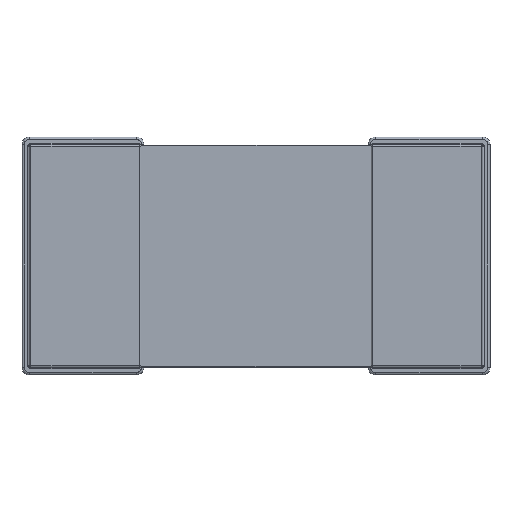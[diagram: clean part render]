
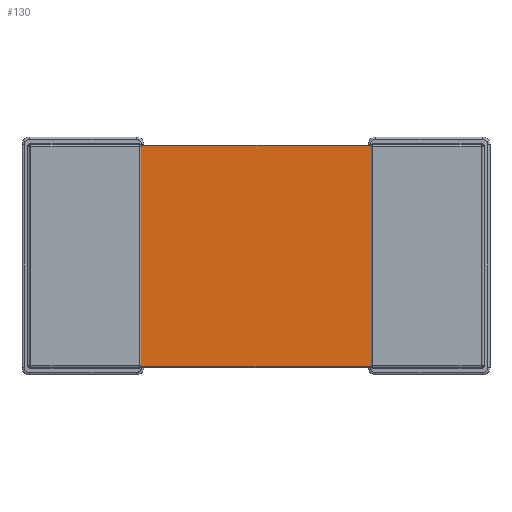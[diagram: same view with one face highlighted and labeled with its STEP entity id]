
A CAD part, top view. The second image highlights one B-rep face of the part: STEP entity #130.
In plain terms, the highlighted planar face has unit normal (0, 0, 1).
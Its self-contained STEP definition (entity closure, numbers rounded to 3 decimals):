
#130=ADVANCED_FACE('',(#1554),#1556,.T.);
#1554=FACE_BOUND('',#1555,.T.);
#1555=EDGE_LOOP('',(#2672,#2673,#2674,#2675,#2676,#2677,#2678,#2679));
#1556=PLANE('',#1557);
#1557=AXIS2_PLACEMENT_3D('',#1558,#1559,#1560);
#1558=CARTESIAN_POINT('',(-1.59,1.488,0.52));
#1559=DIRECTION('',(0.,0.,1.));
#1560=DIRECTION('',(0.,-1.,0.));
#2672=ORIENTED_EDGE('',*,*,#3414,.T.);
#2673=ORIENTED_EDGE('',*,*,#3408,.T.);
#2674=ORIENTED_EDGE('',*,*,#3415,.T.);
#2675=ORIENTED_EDGE('',*,*,#3416,.T.);
#2676=ORIENTED_EDGE('',*,*,#3417,.T.);
#2677=ORIENTED_EDGE('',*,*,#3418,.F.);
#2678=ORIENTED_EDGE('',*,*,#3419,.T.);
#2679=ORIENTED_EDGE('',*,*,#3420,.T.);
#3408=EDGE_CURVE('',#3819,#3817,#3820,.T.);
#3414=EDGE_CURVE('',#3830,#3819,#3831,.T.);
#3415=EDGE_CURVE('',#3817,#3832,#3833,.F.);
#3416=EDGE_CURVE('',#3832,#3834,#3835,.T.);
#3417=EDGE_CURVE('',#3834,#3836,#3837,.T.);
#3418=EDGE_CURVE('',#3838,#3836,#3839,.T.);
#3419=EDGE_CURVE('',#3838,#3840,#3841,.F.);
#3420=EDGE_CURVE('',#3840,#3830,#3842,.T.);
#3817=VERTEX_POINT('',#4515);
#3819=VERTEX_POINT('',#4523);
#3820=LINE('',#4524,#4525);
#3830=VERTEX_POINT('',#4553);
#3831=B_SPLINE_CURVE_WITH_KNOTS('',3,
(#4554,#4555,#4556,#4557,#4558,#4559),
.UNSPECIFIED.,.F.,.F.,
(4,1,1,4),
(0.,0.425,0.759,1.),
.UNSPECIFIED.);
#3832=VERTEX_POINT('',#4560);
#3833=B_SPLINE_CURVE_WITH_KNOTS('',3,
(#4561,#4562,#4563,#4564,#4565,#4566),
.UNSPECIFIED.,.F.,.F.,
(4,1,1,4),
(0.,0.386,0.721,1.),
.UNSPECIFIED.);
#3834=VERTEX_POINT('',#4567);
#3835=LINE('',#4568,#4569);
#3836=VERTEX_POINT('',#4571);
#3837=B_SPLINE_CURVE_WITH_KNOTS('',3,
(#4572,#4573,#4574,#4575,#4576,#4577),
.UNSPECIFIED.,.F.,.F.,
(4,1,1,4),
(0.,0.425,0.759,1.),
.UNSPECIFIED.);
#3838=VERTEX_POINT('',#4578);
#3839=LINE('',#4579,#4580);
#3840=VERTEX_POINT('',#4582);
#3841=B_SPLINE_CURVE_WITH_KNOTS('',3,
(#4583,#4584,#4585,#4586,#4587,#4588),
.UNSPECIFIED.,.F.,.F.,
(4,1,1,4),
(0.,0.386,0.721,1.),
.UNSPECIFIED.);
#3842=LINE('',#4589,#4590);
#4515=CARTESIAN_POINT('',(1.552,-1.488,0.52));
#4523=CARTESIAN_POINT('',(-1.552,-1.488,0.52));
#4524=CARTESIAN_POINT('',(-1.552,-1.488,0.52));
#4525=VECTOR('',#4526,1.);
#4526=DIRECTION('',(1.,0.,0.));
#4553=CARTESIAN_POINT('',(-1.55,-1.48,0.52));
#4554=CARTESIAN_POINT('',(-1.55,-1.48,0.52));
#4555=CARTESIAN_POINT('',(-1.55,-1.481,0.52));
#4556=CARTESIAN_POINT('',(-1.55,-1.483,0.52));
#4557=CARTESIAN_POINT('',(-1.551,-1.486,0.52));
#4558=CARTESIAN_POINT('',(-1.551,-1.487,0.52));
#4559=CARTESIAN_POINT('',(-1.552,-1.488,0.52));
#4560=CARTESIAN_POINT('',(1.55,-1.48,0.52));
#4561=CARTESIAN_POINT('',(1.55,-1.48,0.52));
#4562=CARTESIAN_POINT('',(1.55,-1.481,0.52));
#4563=CARTESIAN_POINT('',(1.55,-1.483,0.52));
#4564=CARTESIAN_POINT('',(1.551,-1.485,0.52));
#4565=CARTESIAN_POINT('',(1.551,-1.487,0.52));
#4566=CARTESIAN_POINT('',(1.552,-1.488,0.52));
#4567=CARTESIAN_POINT('',(1.55,1.48,0.52));
#4568=CARTESIAN_POINT('',(1.55,-1.48,0.52));
#4569=VECTOR('',#4570,1.);
#4570=DIRECTION('',(0.,1.,0.));
#4571=CARTESIAN_POINT('',(1.552,1.488,0.52));
#4572=CARTESIAN_POINT('',(1.55,1.48,0.52));
#4573=CARTESIAN_POINT('',(1.55,1.481,0.52));
#4574=CARTESIAN_POINT('',(1.55,1.483,0.52));
#4575=CARTESIAN_POINT('',(1.551,1.486,0.52));
#4576=CARTESIAN_POINT('',(1.551,1.487,0.52));
#4577=CARTESIAN_POINT('',(1.552,1.488,0.52));
#4578=CARTESIAN_POINT('',(-1.552,1.488,0.52));
#4579=CARTESIAN_POINT('',(-1.552,1.488,0.52));
#4580=VECTOR('',#4581,1.);
#4581=DIRECTION('',(1.,0.,0.));
#4582=CARTESIAN_POINT('',(-1.55,1.48,0.52));
#4583=CARTESIAN_POINT('',(-1.55,1.48,0.52));
#4584=CARTESIAN_POINT('',(-1.55,1.481,0.52));
#4585=CARTESIAN_POINT('',(-1.55,1.483,0.52));
#4586=CARTESIAN_POINT('',(-1.551,1.485,0.52));
#4587=CARTESIAN_POINT('',(-1.551,1.487,0.52));
#4588=CARTESIAN_POINT('',(-1.552,1.488,0.52));
#4589=CARTESIAN_POINT('',(-1.55,1.48,0.52));
#4590=VECTOR('',#4591,1.);
#4591=DIRECTION('',(0.,-1.,0.));
